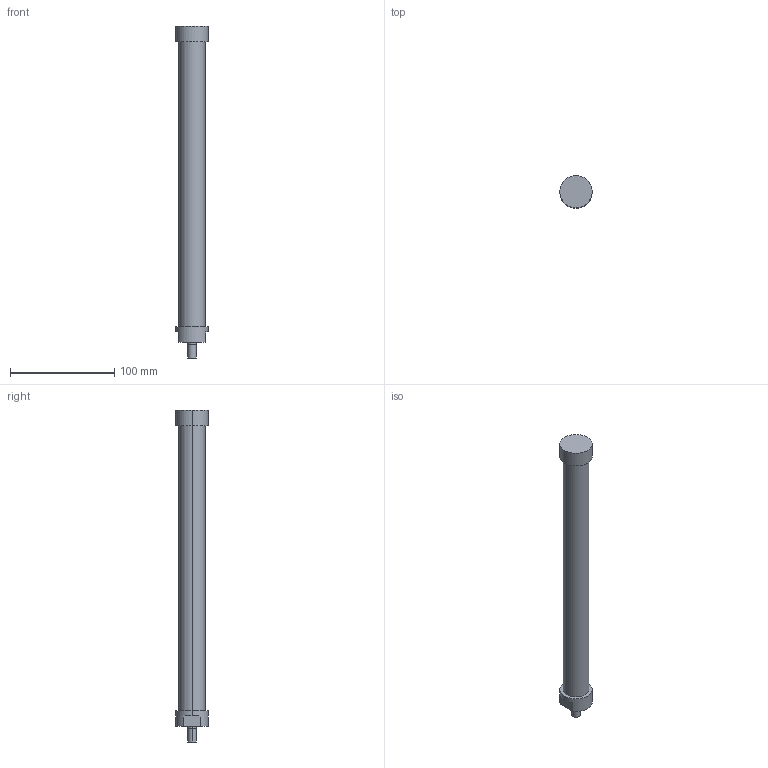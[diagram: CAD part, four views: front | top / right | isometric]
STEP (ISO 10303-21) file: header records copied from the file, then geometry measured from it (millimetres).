
FILE_DESCRIPTION(('STEP AP214'),'1');
FILE_NAME('ETT-R050M314.stp','2015-02-02T14:34:21',(' '),(' '),'Spatial InterOp 3D',' ',' ');
FILE_SCHEMA(('automotive_design'));
Length unit declared in the file: metre
Products named in the file (2): 1; 2
Bounding box: 31 x 31 x 319 mm (x, y, z)
Volume: 157324 mm3; surface area: 27113.1 mm2
Topology: 1 solids, 4 shells, 20 faces, 48 edges, 36 vertices
Faces by surface type: cylinder 10, plane 10
Entity records: 812 total; most frequent: DIRECTION 120, CARTESIAN_POINT 106, ORIENTED_EDGE 84, AXIS2_PLACEMENT_3D 50, EDGE_CURVE 48, VERTEX_POINT 36, CIRCLE 28, EDGE_LOOP 24
